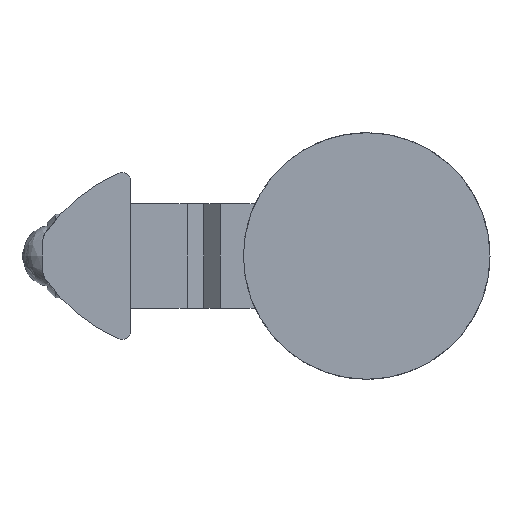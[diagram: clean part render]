
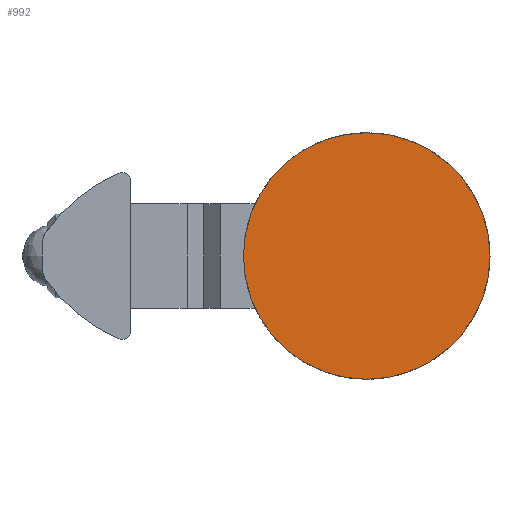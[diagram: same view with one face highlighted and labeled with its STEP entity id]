
A CAD part, front view. The second image highlights one B-rep face of the part: STEP entity #992.
In plain terms, the highlighted planar face has unit normal (0, -1, 0).
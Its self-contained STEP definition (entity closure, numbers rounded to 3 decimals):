
#206 = AXIS2_PLACEMENT_3D ( 'NONE', #1245, #2169, #2576 ) ;
#238 = EDGE_CURVE ( 'NONE', #2872, #298, #1534, .T. ) ;
#241 = AXIS2_PLACEMENT_3D ( 'NONE', #1984, #2911, #1271 ) ;
#292 = CARTESIAN_POINT ( 'NONE',  ( 0., 0., 0. ) ) ;
#298 = VERTEX_POINT ( 'NONE', #848 ) ;
#464 = CIRCLE ( 'NONE', #1230, 5.9 ) ;
#765 = CARTESIAN_POINT ( 'NONE',  ( 0., 0., 5.9 ) ) ;
#793 = EDGE_LOOP ( 'NONE', ( #2676, #1265 ) ) ;
#848 = CARTESIAN_POINT ( 'NONE',  ( 0., 0., -5.9 ) ) ;
#992 = ADVANCED_FACE ( 'NONE', ( #1460 ), #2404, .F. ) ;
#1230 = AXIS2_PLACEMENT_3D ( 'NONE', #292, #1931, #1947 ) ;
#1245 = CARTESIAN_POINT ( 'NONE',  ( 5.9, 0., 0. ) ) ;
#1265 = ORIENTED_EDGE ( 'NONE', *, *, #238, .T. ) ;
#1271 = DIRECTION ( 'NONE',  ( 0., 0., -1. ) ) ;
#1460 = FACE_OUTER_BOUND ( 'NONE', #793, .T. ) ;
#1534 = CIRCLE ( 'NONE', #241, 5.9 ) ;
#1931 = DIRECTION ( 'NONE',  ( 0., -1., 0. ) ) ;
#1947 = DIRECTION ( 'NONE',  ( 0., 0., -1. ) ) ;
#1984 = CARTESIAN_POINT ( 'NONE',  ( 0., 0., 0. ) ) ;
#2169 = DIRECTION ( 'NONE',  ( 0., 1., 0. ) ) ;
#2404 = PLANE ( 'NONE',  #206 ) ;
#2414 = EDGE_CURVE ( 'NONE', #298, #2872, #464, .T. ) ;
#2576 = DIRECTION ( 'NONE',  ( 1., 0., 0. ) ) ;
#2676 = ORIENTED_EDGE ( 'NONE', *, *, #2414, .T. ) ;
#2872 = VERTEX_POINT ( 'NONE', #765 ) ;
#2911 = DIRECTION ( 'NONE',  ( 0., -1., 0. ) ) ;
